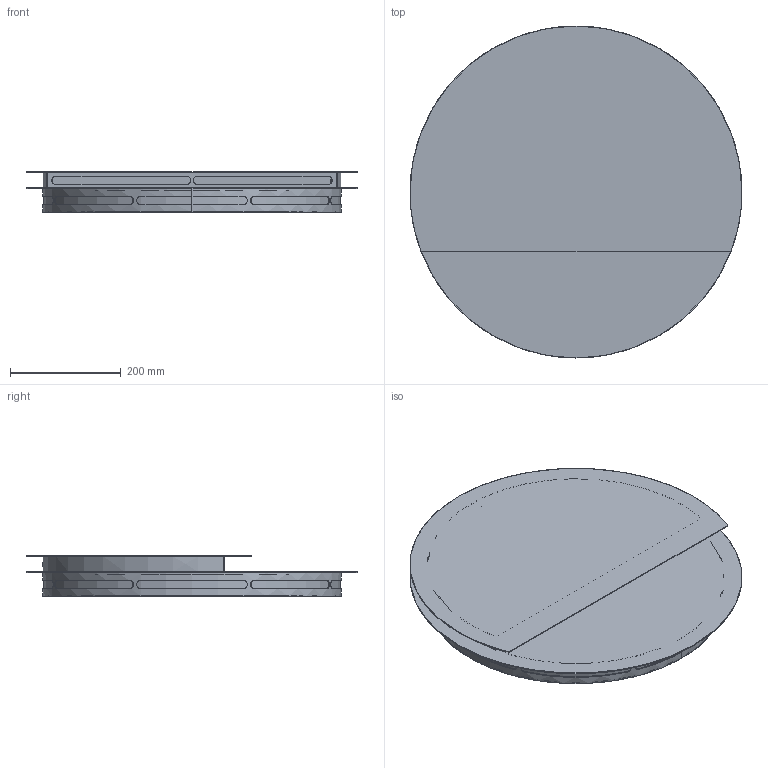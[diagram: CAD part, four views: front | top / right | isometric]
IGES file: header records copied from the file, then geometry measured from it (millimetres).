
Start section: SolidWorks IGES file using analytic representation for surfaces
Global section: file name: \\UTENTI\Dati Utenti\Tecnico\DC\2D - 3D per sito\3D\DeCastelli-3D-Light&Shade60.igs; native system: SolidWorks 2022; preprocessor: SolidWorks 2022; author: filippo; date: 240724.135713; units: millimetre
Bounding box: 600 x 600 x 73.5 mm (x, y, z)
Surface area: 1576234.3 mm2 (no closed solid volume)
Topology: 0 solids, 0 shells, 354 faces, 7437 edges, 7437 vertices
Faces by surface type: bspline 191, revolution 163
